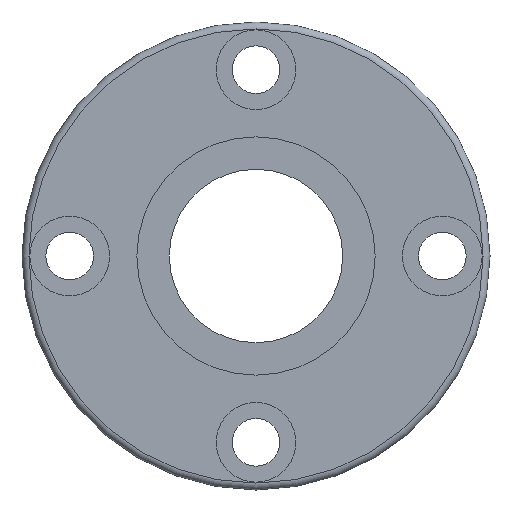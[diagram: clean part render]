
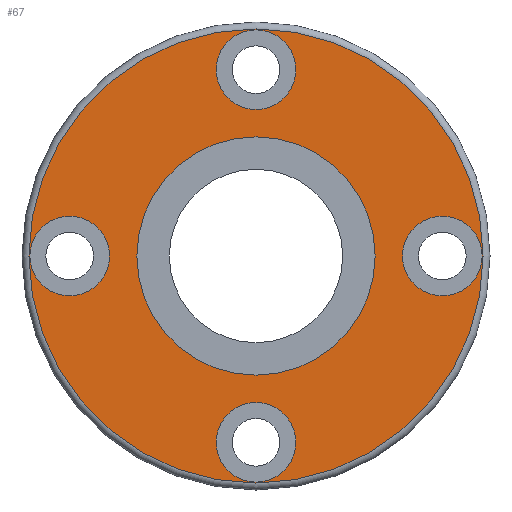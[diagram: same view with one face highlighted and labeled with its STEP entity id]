
A CAD part, left-side view. The second image highlights one B-rep face of the part: STEP entity #67.
In plain terms, the highlighted planar face has unit normal (-1, 0, 0).
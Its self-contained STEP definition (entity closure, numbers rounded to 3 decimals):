
#67 = ADVANCED_FACE( '', ( #154, #155, #156, #157, #158, #159 ), #160, .T. );
#154 = FACE_BOUND( '', #277, .T. );
#155 = FACE_BOUND( '', #278, .T. );
#156 = FACE_BOUND( '', #279, .T. );
#157 = FACE_BOUND( '', #280, .T. );
#158 = FACE_BOUND( '', #281, .T. );
#159 = FACE_OUTER_BOUND( '', #282, .T. );
#160 = PLANE( '', #283 );
#277 = EDGE_LOOP( '', ( #410 ) );
#278 = EDGE_LOOP( '', ( #411 ) );
#279 = EDGE_LOOP( '', ( #412 ) );
#280 = EDGE_LOOP( '', ( #413 ) );
#281 = EDGE_LOOP( '', ( #414 ) );
#282 = EDGE_LOOP( '', ( #415 ) );
#283 = AXIS2_PLACEMENT_3D( '', #416, #417, #418 );
#410 = ORIENTED_EDGE( '', *, *, #554, .T. );
#411 = ORIENTED_EDGE( '', *, *, #555, .T. );
#412 = ORIENTED_EDGE( '', *, *, #544, .T. );
#413 = ORIENTED_EDGE( '', *, *, #556, .T. );
#414 = ORIENTED_EDGE( '', *, *, #557, .F. );
#415 = ORIENTED_EDGE( '', *, *, #558, .T. );
#416 = CARTESIAN_POINT( '', ( 0., 20.275, 0. ) );
#417 = DIRECTION( '', ( -1., 0., 0. ) );
#418 = DIRECTION( '', ( 0., 1., 0. ) );
#544 = EDGE_CURVE( '', #610, #610, #611, .T. );
#554 = EDGE_CURVE( '', #626, #626, #627, .T. );
#555 = EDGE_CURVE( '', #628, #628, #629, .T. );
#556 = EDGE_CURVE( '', #630, #630, #631, .T. );
#557 = EDGE_CURVE( '', #632, #632, #633, .T. );
#558 = EDGE_CURVE( '', #634, #634, #635, .T. );
#610 = VERTEX_POINT( '', #699 );
#611 = CIRCLE( '', #700, 4.6 );
#626 = VERTEX_POINT( '', #715 );
#627 = CIRCLE( '', #716, 4.6 );
#628 = VERTEX_POINT( '', #717 );
#629 = CIRCLE( '', #718, 4.6 );
#630 = VERTEX_POINT( '', #719 );
#631 = CIRCLE( '', #720, 4.6 );
#632 = VERTEX_POINT( '', #721 );
#633 = CIRCLE( '', #722, 13.75 );
#634 = VERTEX_POINT( '', #723 );
#635 = CIRCLE( '', #724, 26.2 );
#699 = CARTESIAN_POINT( '', ( 0., -26.1, 0. ) );
#700 = AXIS2_PLACEMENT_3D( '', #791, #792, #793 );
#715 = CARTESIAN_POINT( '', ( 0., 0., -26.1 ) );
#716 = AXIS2_PLACEMENT_3D( '', #809, #810, #811 );
#717 = CARTESIAN_POINT( '', ( 0., 0., 26.1 ) );
#718 = AXIS2_PLACEMENT_3D( '', #812, #813, #814 );
#719 = CARTESIAN_POINT( '', ( 0., 26.1, 0. ) );
#720 = AXIS2_PLACEMENT_3D( '', #815, #816, #817 );
#721 = CARTESIAN_POINT( '', ( 0., 13.75, 0. ) );
#722 = AXIS2_PLACEMENT_3D( '', #818, #819, #820 );
#723 = CARTESIAN_POINT( '', ( 0., 26.2, 0. ) );
#724 = AXIS2_PLACEMENT_3D( '', #821, #822, #823 );
#791 = CARTESIAN_POINT( '', ( 0., -21.5, 0. ) );
#792 = DIRECTION( '', ( 1., 0., 0. ) );
#793 = DIRECTION( '', ( 0., -1., 0. ) );
#809 = CARTESIAN_POINT( '', ( 0., 0., -21.5 ) );
#810 = DIRECTION( '', ( 1., 0., 0. ) );
#811 = DIRECTION( '', ( 0., 0., -1. ) );
#812 = CARTESIAN_POINT( '', ( 0., 0., 21.5 ) );
#813 = DIRECTION( '', ( 1., 0., 0. ) );
#814 = DIRECTION( '', ( 0., 0., 1. ) );
#815 = CARTESIAN_POINT( '', ( 0., 21.5, 0. ) );
#816 = DIRECTION( '', ( 1., 0., 0. ) );
#817 = DIRECTION( '', ( 0., 1., 0. ) );
#818 = CARTESIAN_POINT( '', ( 0., 0., 0. ) );
#819 = DIRECTION( '', ( -1., 0., 0. ) );
#820 = DIRECTION( '', ( 0., 1., 0. ) );
#821 = CARTESIAN_POINT( '', ( 0., 0., 0. ) );
#822 = DIRECTION( '', ( -1., 0., 0. ) );
#823 = DIRECTION( '', ( 0., 0., 1. ) );
